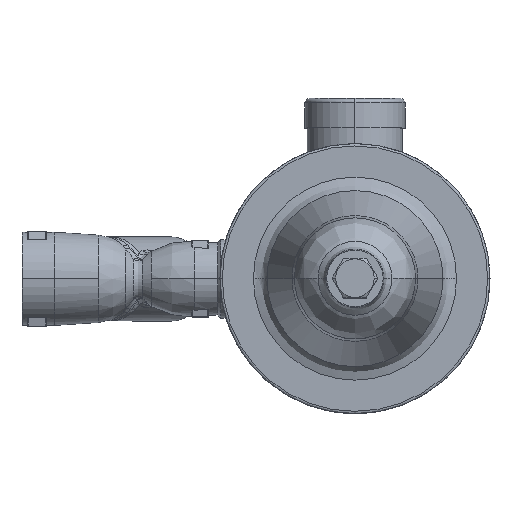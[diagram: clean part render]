
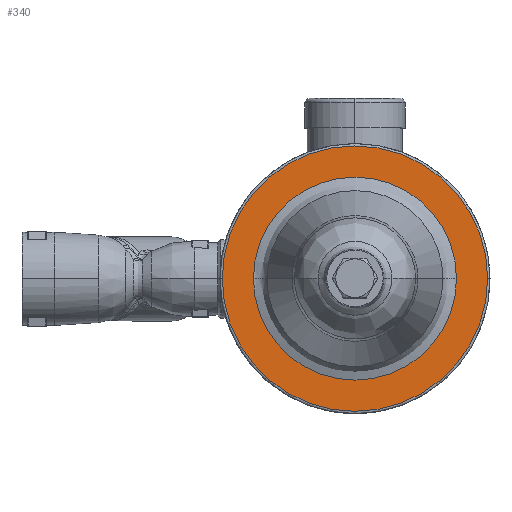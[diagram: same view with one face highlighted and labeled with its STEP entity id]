
A CAD part, top view. The second image highlights one B-rep face of the part: STEP entity #340.
In plain terms, the highlighted planar face has unit normal (0, 0, 1).
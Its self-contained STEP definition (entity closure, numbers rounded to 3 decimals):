
#340=ADVANCED_FACE('',(#2838,#2839),#2837,.T.);
#2837=PLANE('',#8793);
#2838=FACE_OUTER_BOUND('',#8794,.T.);
#2839=FACE_BOUND('',#8795,.T.);
#8790=CARTESIAN_POINT('',(-124.,-108.727,49.));
#8791=DIRECTION('',(0.,0.,1.));
#8792=DIRECTION('',(1.,0.,0.));
#8793=AXIS2_PLACEMENT_3D('',#8790,#8791,#8792);
#8794=EDGE_LOOP('',(#12002,#12003));
#8795=EDGE_LOOP('',(#12004,#12005));
#12002=ORIENTED_EDGE('',*,*,#13687,.T.);
#12003=ORIENTED_EDGE('',*,*,#13688,.T.);
#12004=ORIENTED_EDGE('',*,*,#13689,.T.);
#12005=ORIENTED_EDGE('',*,*,#13690,.T.);
#13687=EDGE_CURVE('',#18680,#18681,#18682,.T.);
#13688=EDGE_CURVE('',#18681,#18680,#18688,.T.);
#13689=EDGE_CURVE('',#18694,#18695,#18696,.T.);
#13690=EDGE_CURVE('',#18695,#18694,#18702,.T.);
#18680=VERTEX_POINT('',#25240);
#18681=VERTEX_POINT('',#25241);
#18682=CIRCLE('',#25245,57.);
#18688=CIRCLE('',#25249,57.);
#18694=VERTEX_POINT('',#25250);
#18695=VERTEX_POINT('',#25251);
#18696=CIRCLE('',#25255,43.604);
#18702=CIRCLE('',#25259,43.604);
#25240=CARTESIAN_POINT('',(57.,0.,49.));
#25241=CARTESIAN_POINT('',(-57.,0.,49.));
#25242=CARTESIAN_POINT('',(0.,0.,49.));
#25243=DIRECTION('',(0.,0.,1.));
#25244=DIRECTION('',(1.,0.,0.));
#25245=AXIS2_PLACEMENT_3D('',#25242,#25243,#25244);
#25246=CARTESIAN_POINT('',(0.,0.,49.));
#25247=DIRECTION('',(0.,0.,1.));
#25248=DIRECTION('',(1.,0.,0.));
#25249=AXIS2_PLACEMENT_3D('',#25246,#25247,#25248);
#25250=CARTESIAN_POINT('',(43.604,0.,49.));
#25251=CARTESIAN_POINT('',(-43.604,0.,49.));
#25252=CARTESIAN_POINT('',(0.,0.,49.));
#25253=DIRECTION('',(0.,0.,-1.));
#25254=DIRECTION('',(1.,0.,0.));
#25255=AXIS2_PLACEMENT_3D('',#25252,#25253,#25254);
#25256=CARTESIAN_POINT('',(0.,0.,49.));
#25257=DIRECTION('',(0.,0.,-1.));
#25258=DIRECTION('',(1.,0.,0.));
#25259=AXIS2_PLACEMENT_3D('',#25256,#25257,#25258);
